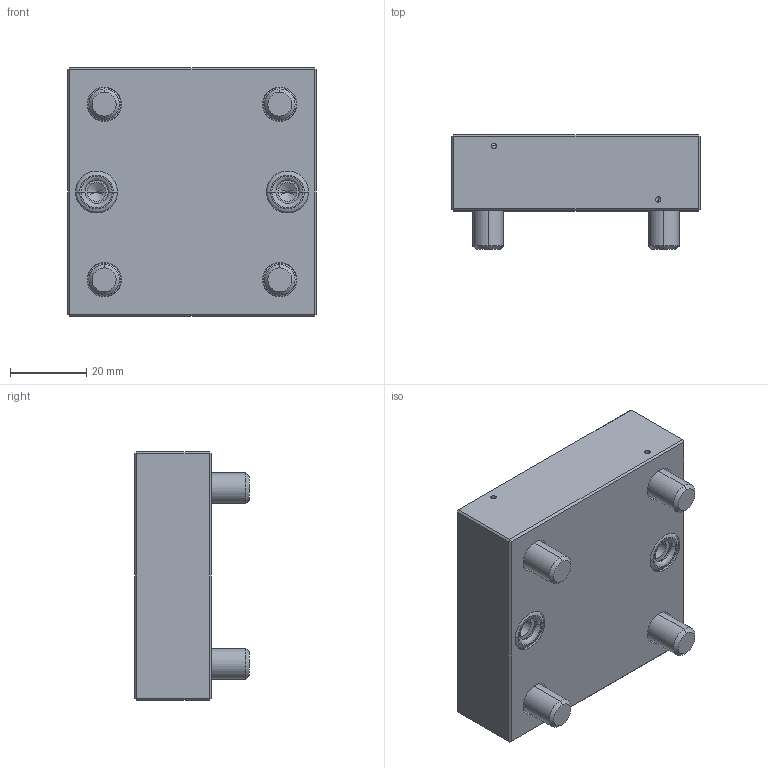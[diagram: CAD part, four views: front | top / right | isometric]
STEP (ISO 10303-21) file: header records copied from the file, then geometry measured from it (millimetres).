
FILE_DESCRIPTION (( 'STEP AP214' ), '1' );
FILE_NAME ('D16420.STEP', '2017-03-17T14:13:36', ( '' ), ( '' ), 'SwSTEP 2.0', 'SolidWorks 2016', '' );
FILE_SCHEMA (( 'AUTOMOTIVE_DESIGN' ));
Length unit declared in the file: millimetre
Products named in the file (1): D16420
Bounding box: 65 x 30 x 65 mm (x, y, z)
Volume: 82099.7 mm3; surface area: 21253.9 mm2
Topology: 7 solids, 7 shells, 202 faces, 448 edges, 263 vertices
Faces by surface type: plane 96, cylinder 52, cone 22, torus 16, bspline 16
Entity records: 7980 total; most frequent: CARTESIAN_POINT 1214, DIRECTION 988, ORIENTED_EDGE 868, EDGE_CURVE 434, AXIS2_PLACEMENT_3D 385, VERTEX_POINT 263, EDGE_LOOP 233, VECTOR 218
